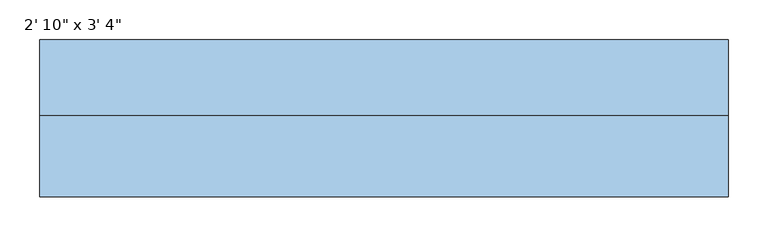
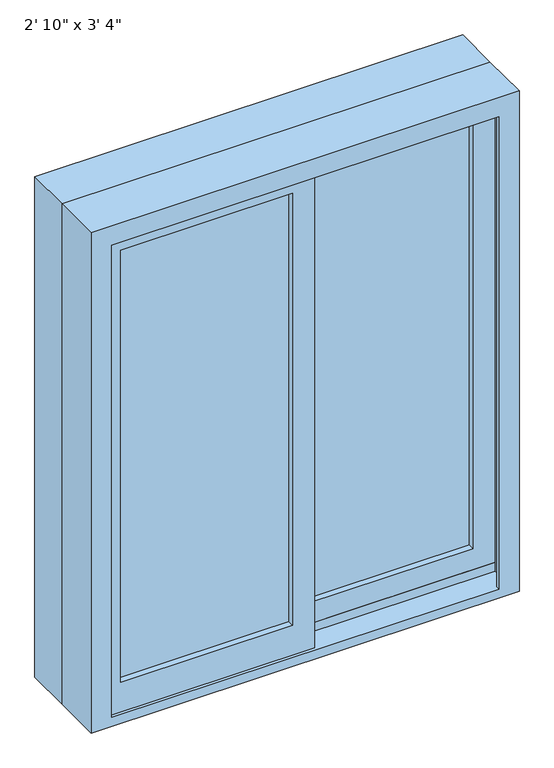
"""IFC4 building model written with IfcOpenShell, lengths in millimetres: window geometry."""

from ifc_helpers import new_model, si_unit, frame, origin, place, context, project, spatial, polyline, outline, extrude, faceted_brep, source, transform, mapped, element, save


def window_c6f3775c(model_context):
    return source(origin(), model_context, "Body", "SolidModel", [
        extrude(outline(polyline([(933.45, 22.225), (1962.15, 22.225), (1962.15, -412.75), (933.45, -412.75), (933.45, 22.225)]), holes=[polyline([(1917.7, -368.3), (1917.7, -22.225), (996.95, -22.225), (996.95, -368.3), (1917.7, -368.3)])]), frame((0.0, -97.79, 0.0), z_axis=(0.0, 1.0, 0.0), x_axis=(0.0, 0.0, 1.0)), (0.0, 0.0, 1.0), 44.45),
        extrude(outline(polyline([(952.5, -22.225), (952.5, 412.75), (1962.15, 412.75), (1962.15, -22.225), (952.5, -22.225)]), holes=[polyline([(996.95, 368.3), (996.95, 22.225), (1917.7, 22.225), (1917.7, 368.3), (996.95, 368.3)])]), frame((0.0, -53.34, 0.0), z_axis=(0.0, 1.0, 0.0), x_axis=(0.0, 0.0, 1.0)), (0.0, 0.0, 1.0), 44.45),
        faceted_brep([(-431.8, -2.54, 914.4), (431.8, -2.54, 914.4), (431.8, -104.14, 914.4), (-431.8, -104.14, 914.4), (-390.8778905, -104.14, 1940.2778905), (-390.8778905, -104.14, 933.45), (-390.8778905, -97.79, 933.45), (-390.8778905, -97.79, 1940.2778905), (-412.75, -97.79, 933.45), (-412.75, -97.79, 1962.15), (412.75, -97.79, 1962.15), (412.75, -97.79, 933.45), (390.8778905, -97.79, 933.45), (390.8778905, -97.79, 1940.2778905), (-412.75, -53.34, 933.45), (-412.75, -53.34, 952.5), (-412.75, -8.89, 952.5), (-412.75, -8.89, 933.45), (-412.75, -2.54, 933.45), (-412.75, -2.54, 1962.15), (-431.8, -2.54, 1981.2), (431.8, -2.54, 1981.2), (412.75, -2.54, 1962.15), (412.75, -2.54, 933.45), (-431.8, -104.14, 1981.2), (431.8, -104.14, 1981.2), (390.8778905, -104.14, 1940.2778905), (390.8778905, -104.14, 933.45), (412.75, -8.89, 933.45), (412.75, -8.89, 952.5), (412.75, -53.34, 952.5), (412.75, -53.34, 933.45)], [[[0, 1, 2, 3]], [[4, 5, 6, 7]], [[7, 6, 8, 9, 10, 11, 12, 13]], [[9, 8, 14, 15, 16, 17, 18, 19]], [[0, 20, 21, 1], [22, 19, 18, 23]], [[24, 20, 0, 3]], [[2, 25, 24, 3], [4, 26, 27, 5]], [[7, 13, 26, 4]], [[9, 19, 22, 10]], [[20, 24, 25, 21]], [[13, 12, 27, 26]], [[22, 23, 28, 29, 30, 31, 11, 10]], [[21, 25, 2, 1]], [[27, 12, 11, 31, 14, 8, 6, 5]], [[31, 30, 15, 14]], [[30, 29, 16, 15]], [[29, 28, 17, 16]], [[18, 17, 28, 23]]]),
        extrude(outline(polyline([(1981.2, 431.8), (1981.2, -431.8), (914.4, -431.8), (914.4, 431.8), (1981.2, 431.8)]), holes=[polyline([(1962.15, -412.75), (1962.15, 412.75), (933.45, 412.75), (933.45, -412.75), (1962.15, -412.75)])]), frame((0.0, -2.54, 0.0), z_axis=(0.0, 1.0, 0.0), x_axis=(0.0, 0.0, 1.0)), (0.0, 0.0, 1.0), 95.25),
        extrude(outline(polyline([(368.3, -40.64), (22.225, -40.64), (22.225, -34.29), (368.3, -34.29), (368.3, -40.64)])), frame((0.0, 0.0, 996.95), z_axis=(0.0, 0.0, 1.0), x_axis=(1.0, 0.0, 0.0)), (0.0, 0.0, 1.0), 920.75),
        extrude(outline(polyline([(368.3, -27.94), (22.225, -27.94), (22.225, -21.59), (368.3, -21.59), (368.3, -27.94)])), frame((0.0, 0.0, 996.95), z_axis=(0.0, 0.0, 1.0), x_axis=(1.0, 0.0, 0.0)), (0.0, 0.0, 1.0), 920.75),
        extrude(outline(polyline([(-22.225, -85.09), (-368.3, -85.09), (-368.3, -78.74), (-22.225, -78.74), (-22.225, -85.09)])), frame((0.0, 0.0, 996.95), z_axis=(0.0, 0.0, 1.0), x_axis=(1.0, 0.0, 0.0)), (0.0, 0.0, 1.0), 920.75),
        extrude(outline(polyline([(-22.225, -72.39), (-368.3, -72.39), (-368.3, -66.04), (-22.225, -66.04), (-22.225, -72.39)])), frame((0.0, 0.0, 996.95), z_axis=(0.0, 0.0, 1.0), x_axis=(1.0, 0.0, 0.0)), (0.0, 0.0, 1.0), 920.75),
    ])


if __name__ == "__main__":
    model = new_model("IFC4")
    model_context = context("Model", 3, world=origin())
    ifc_project = project(units=[si_unit("LENGTHUNIT", "METRE", prefix="MILLI")], contexts=[model_context])
    site = spatial("IfcSite", under=ifc_project)
    building = spatial("IfcBuilding", under=site)
    placement = place(None, origin())
    window_shape = window_c6f3775c(model_context)
    element("IfcWindow", 1, ObjectType="Planitar-Sliding-Double : 2' 10\" x 3' 4\"", at=placement, inside=building, context=model_context, shape_type="MappedRepresentation", body=[
        mapped(window_shape, transform((0.0, 0.0, 0.0), x_axis=(1.0, 0.0, 0.0), y_axis=(0.0, 1.0, 0.0), z_axis=(0.0, 0.0, 1.0))),
    ])
    save(model, "model.ifc")
